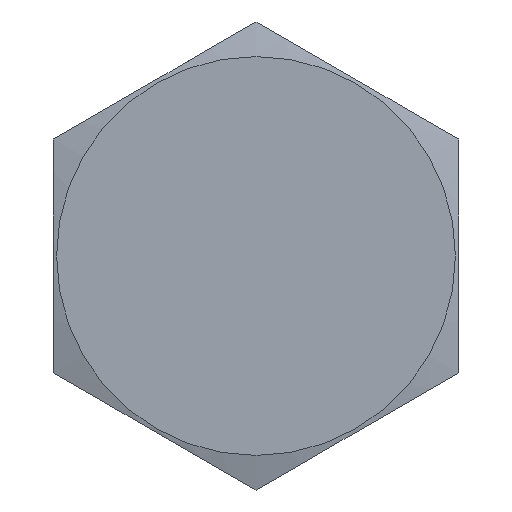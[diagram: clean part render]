
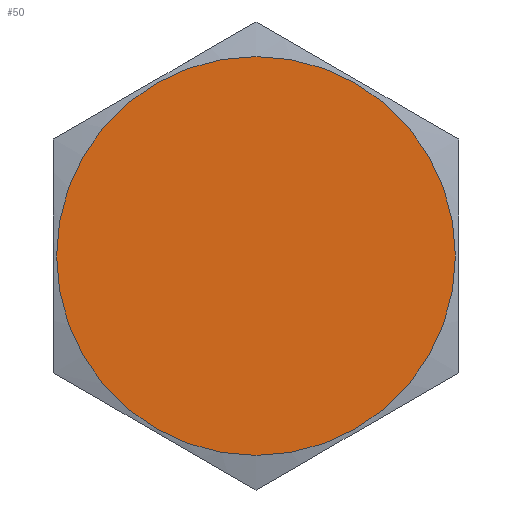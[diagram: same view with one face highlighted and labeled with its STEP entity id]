
A CAD part, left-side view. The second image highlights one B-rep face of the part: STEP entity #50.
In plain terms, the highlighted planar face has unit normal (-1, 0, 0).
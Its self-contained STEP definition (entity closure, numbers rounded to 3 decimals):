
#50 = ADVANCED_FACE( '', ( #115 ), #116, .T. );
#115 = FACE_OUTER_BOUND( '', #203, .T. );
#116 = PLANE( '', #204 );
#203 = EDGE_LOOP( '', ( #294 ) );
#204 = AXIS2_PLACEMENT_3D( '', #295, #296, #297 );
#294 = ORIENTED_EDGE( '', *, *, #439, .T. );
#295 = CARTESIAN_POINT( '', ( -20., -8.5, -4.907 ) );
#296 = DIRECTION( '', ( -1., 0., 0. ) );
#297 = DIRECTION( '', ( 0., -1., 0. ) );
#439 = EDGE_CURVE( '', #502, #502, #503, .T. );
#502 = VERTEX_POINT( '', #612 );
#503 = CIRCLE( '', #613, 8.365 );
#612 = CARTESIAN_POINT( '', ( -20., 0., 8.365 ) );
#613 = AXIS2_PLACEMENT_3D( '', #716, #717, #718 );
#716 = CARTESIAN_POINT( '', ( -20., 0., 0. ) );
#717 = DIRECTION( '', ( -1., 0., 0. ) );
#718 = DIRECTION( '', ( 0., 0., 1. ) );
